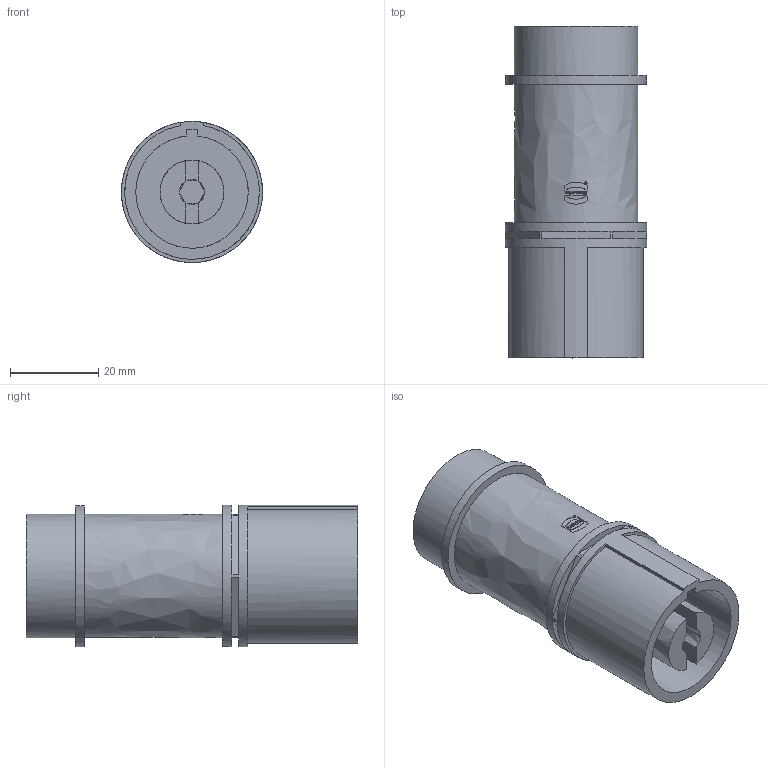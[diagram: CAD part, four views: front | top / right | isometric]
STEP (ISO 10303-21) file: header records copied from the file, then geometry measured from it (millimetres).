
FILE_DESCRIPTION(( 'HARTING HARTING HARTING HARTING HARTING HARTING HARTING HARTING HARTING', 'This Document is valid for Parts No. 09 11 001 2652'),'2;1');
FILE_NAME('/local/hp_han15/dsra3d/a21/MD_09110012652_R29679.stp', '2010-05-11T11:06:22',('ITIS-4b'),('HARTING KGaA, D-32339 Espelkamp'), 'I-DEAS Master Series 10','HP-UNIX','Yes');
FILE_SCHEMA(('AUTOMOTIVE_DESIGN { 1 0 10303 214 1 1 1 1 }'));
Length unit declared in the file: millimetre
Products named in the file (1): MD 09 11 001 2652
Bounding box: 31.99 x 75.2 x 32 mm (x, y, z)
Volume: 35054 mm3; surface area: 14497.1 mm2
Topology: 1 solids, 1 shells, 312 faces, 839 edges, 555 vertices
Faces by surface type: bspline 312
Entity records: 9536 total; most frequent: CARTESIAN_POINT 4308, ORIENTED_EDGE 1676, EDGE_CURVE 838, VERTEX_POINT 555, OVER_RIDING_STYLED_ITEM 440, EDGE_LOOP 339, FACE_OUTER_BOUND 312, ADVANCED_FACE 312
